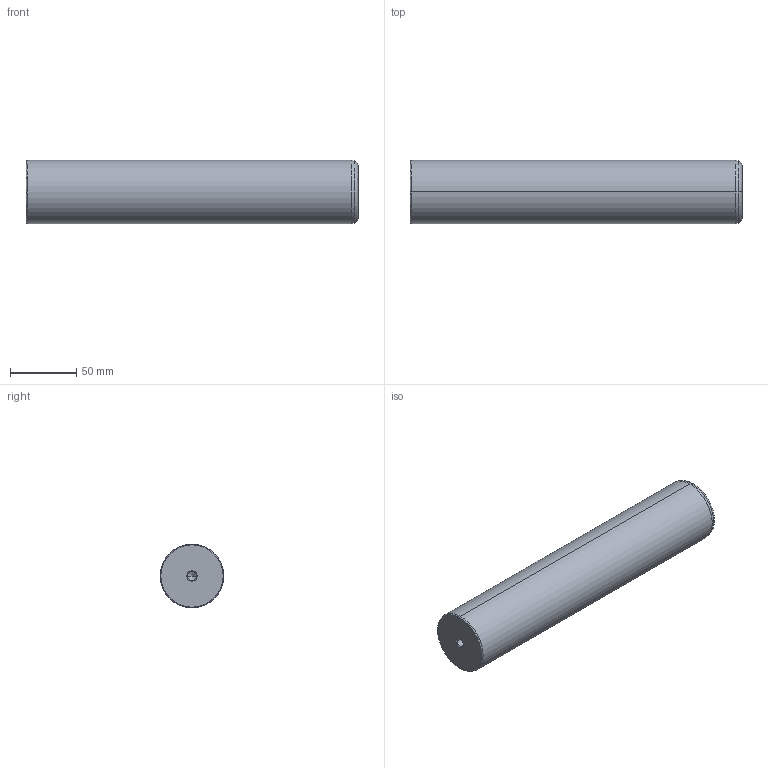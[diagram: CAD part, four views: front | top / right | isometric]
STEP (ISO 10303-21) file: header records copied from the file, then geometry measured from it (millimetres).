
FILE_DESCRIPTION(('CATIA V5 STEP Exchange'),'2;1');
FILE_NAME('C:\Users\Utente\Desktop\IO LAVORO\3D X SITO CF\X SITO\720\720-48x250.stp','2020-12-30T21:50:46+00:00',('none'),('none'),'CATIA Version 5 Release 20 GA (IN-10)','CATIA V5 STEP AP203','none');
FILE_SCHEMA(('CONFIG_CONTROL_DESIGN'));
Length unit declared in the file: millimetre
Products named in the file (1): 720-48x250
Bounding box: 250 x 48 x 48 mm (x, y, z)
Volume: 449878.8 mm3; surface area: 41926.5 mm2
Topology: 1 solids, 1 shells, 22 faces, 56 edges, 34 vertices
Faces by surface type: cone 12, cylinder 6, plane 2, torus 2
Entity records: 755 total; most frequent: CARTESIAN_POINT 216, ORIENTED_EDGE 104, DIRECTION 89, EDGE_CURVE 52, AXIS2_PLACEMENT_3D 50, VERTEX_POINT 34, CIRCLE 27, EDGE_LOOP 24
